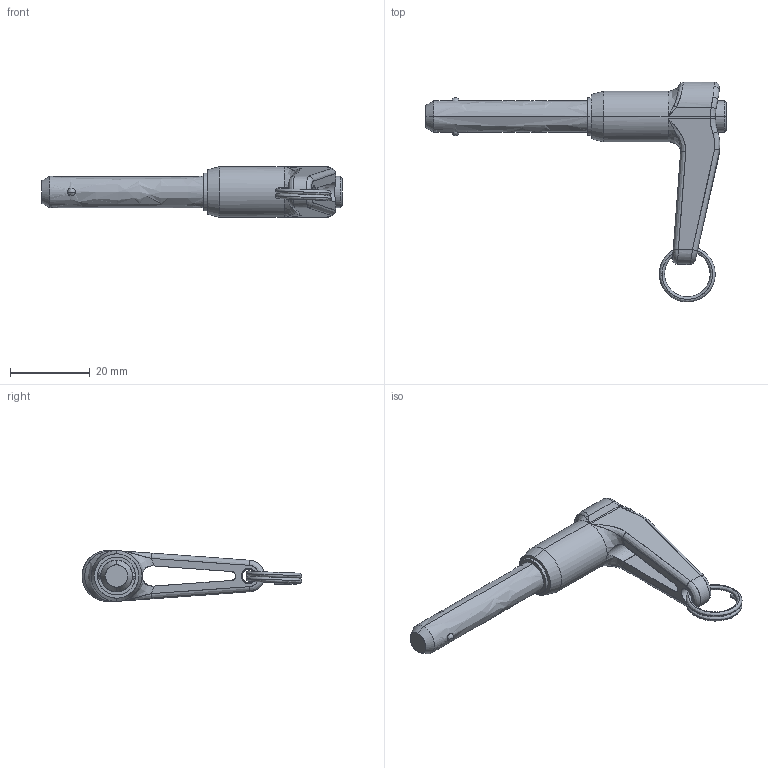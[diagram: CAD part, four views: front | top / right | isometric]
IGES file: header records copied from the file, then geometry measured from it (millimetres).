
Start section: SolidWorks IGES file using analytic representation for surfaces
Global section: file name: C:\Documents and Settings\IANO\My Documents\Wix and Auto CAD Work\CAD Models\Parametric Models\Wix Models\30000\33620_v2\33620_v2_20160606_IGES\33620.C013.igs; native system: SolidWorks 2009; preprocessor: SolidWorks 2009; author: IANO; date: 160615.125754; units: inch
Bounding box: 75.27 x 55.09 x 12.7 mm (x, y, z)
Surface area: 5770.1 mm2 (no closed solid volume)
Topology: 0 solids, 0 shells, 85 faces, 1226 edges, 1224 vertices
Faces by surface type: bspline 55, revolution 30
